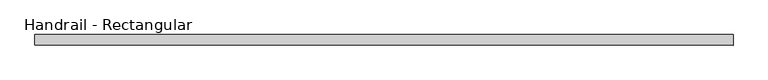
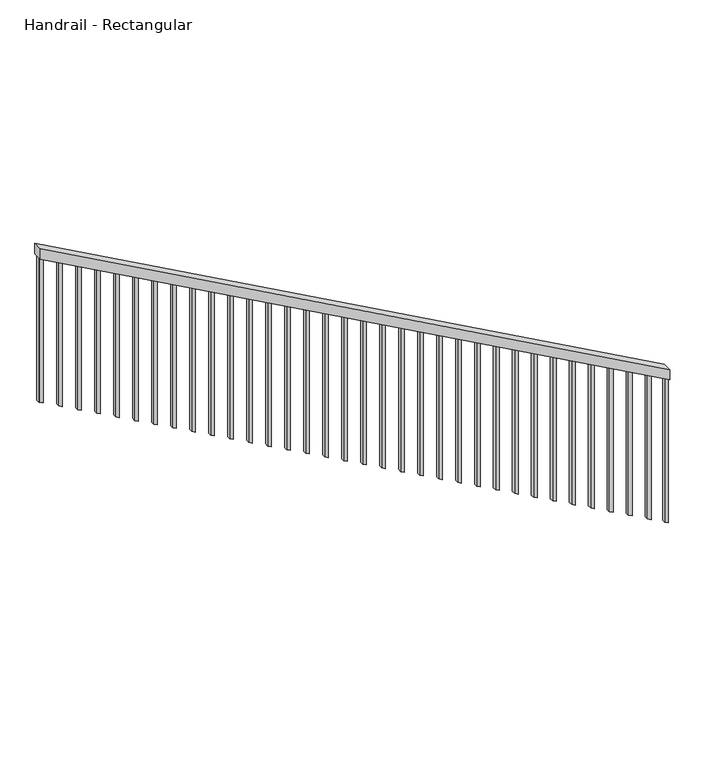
"""IFC4 building model written with IfcOpenShell, lengths in millimetres: railing geometry, Handrail - Rectangular."""

import ifcopenshell
import ifcopenshell.guid

model = None  # the IFC model being written
_history = None  # IfcOwnerHistory: only IFC2X3 demands one
_inside = {}  # id of a spatial element -> (the spatial element, [elements in it])
_under = {}  # id of a project, library or spatial element -> (it, [spatial elements below it])
_declared = {}  # id of a project -> (the project, [libraries it declares])
_typed = {}  # id of a type object -> (the type object, [elements of that type])
_made_of = {}  # id of a material, layer set ... -> (it, [elements and type objects made of it])


def new_model(schema):
    """Start an empty IFC model of exactly this schema.

    Asked for "IFC4X3", IfcOpenShell would pick the latest addendum, in which some entities
    have other attributes; the version numbers below select the first issue.
    IFC2X3 requires an IfcOwnerHistory on every rooted entity: one is made here for all.
    """
    global model, _history
    if schema == "IFC4X3":
        model = ifcopenshell.file(schema_version=(4, 3, 0, 0))
    else:
        model = ifcopenshell.file(schema=schema)
    _inside.clear()
    _under.clear()
    _declared.clear()
    _typed.clear()
    _made_of.clear()
    _history = None
    if model.schema == "IFC2X3":
        org = make("IfcOrganization", Name="unknown")
        user = make(
            "IfcPersonAndOrganization",
            ThePerson=make("IfcPerson", FamilyName="unknown"),
            TheOrganization=org,
        )
        app = make(
            "IfcApplication",
            ApplicationDeveloper=org,
            Version="unknown",
            ApplicationFullName="unknown",
            ApplicationIdentifier="unknown",
        )
        _history = make(
            "IfcOwnerHistory",
            OwningUser=user,
            OwningApplication=app,
            ChangeAction="ADDED",
            CreationDate=0,
        )
    return model


def make(cls, **values):
    """One entity of the class cls with the attributes given. An attribute that is None is left unset."""
    return model.create_entity(
        cls, **{name: value for name, value in values.items() if value is not None}
    )


def rooted(cls, **values):
    """An entity with a GlobalId (a new one), such as an element, a storey or a relation."""
    return make(cls, GlobalId=ifcopenshell.guid.new(), OwnerHistory=_history, **values)


def si_unit(unit_type, name, prefix=None):
    """IfcSIUnit, for example si_unit("LENGTHUNIT", "METRE", prefix="MILLI")."""
    return make("IfcSIUnit", UnitType=unit_type, Prefix=prefix, Name=name)


def assignment(units):
    """IfcUnitAssignment: the units of a project."""
    return None if units is None else make("IfcUnitAssignment", Units=units)


def point(xyz):
    """IfcCartesianPoint."""
    return None if xyz is None else make("IfcCartesianPoint", Coordinates=xyz)


def direction(xyz):
    """IfcDirection."""
    return None if xyz is None else make("IfcDirection", DirectionRatios=xyz)


def frame(location, z_axis=None, x_axis=None):
    """IfcAxis2Placement3D, a coordinate frame: its origin and axes. An axis left out is left unset."""
    return make(
        "IfcAxis2Placement3D",
        Location=point(location),
        Axis=direction(z_axis),
        RefDirection=direction(x_axis),
    )


def origin():
    """The frame at (0, 0, 0) with its axes left unset."""
    return frame((0.0, 0.0, 0.0))


def place(relative_to, where):
    """IfcLocalPlacement: puts the frame where relative to a parent placement (None: the world)."""
    return make(
        "IfcLocalPlacement", PlacementRelTo=relative_to, RelativePlacement=where
    )


def context(
    kind, dimensions, precision=None, world=None, true_north=None, identifier=None
):
    """IfcGeometricRepresentationContext, for example the 3D "Model" context."""
    return make(
        "IfcGeometricRepresentationContext",
        ContextIdentifier=identifier,
        ContextType=kind,
        CoordinateSpaceDimension=dimensions,
        Precision=precision,
        WorldCoordinateSystem=world,
        TrueNorth=true_north,
    )


def project(units=None, contexts=None):
    """IfcProject with its units and contexts."""
    return rooted(
        "IfcProject",
        Name="project",
        RepresentationContexts=contexts,
        UnitsInContext=assignment(units),
    )


def spatial(cls, under=None, at=None, **own):
    """A site, building, storey or space (cls), placed at a placement, below another one or the project."""
    s = rooted(cls, ObjectPlacement=at, **own)
    if under is not None:
        _under.setdefault(under.id(), (under, []))[1].append(s)
    return s


def polyline(points):
    """IfcPolyline through the points."""
    return make("IfcPolyline", Points=[point(p) for p in points])


def outline(outer, holes=None, kind="AREA"):
    """IfcArbitraryClosedProfileDef: a profile drawn as a closed curve; with holes, ...WithVoids."""
    if holes is None:
        return make("IfcArbitraryClosedProfileDef", ProfileType=kind, OuterCurve=outer)
    return make(
        "IfcArbitraryProfileDefWithVoids",
        ProfileType=kind,
        OuterCurve=outer,
        InnerCurves=holes,
    )


def extrude(swept, where, along, depth):
    """IfcExtrudedAreaSolid: the profile swept, set in the frame where, extruded along a direction by depth."""
    return make(
        "IfcExtrudedAreaSolid",
        SweptArea=swept,
        Position=where,
        ExtrudedDirection=direction(along),
        Depth=depth,
    )


def shape(context_of_items, identifier, shape_type, items):
    """IfcShapeRepresentation: the items that make up one representation, for example the "Body"."""
    return make(
        "IfcShapeRepresentation",
        ContextOfItems=context_of_items,
        RepresentationIdentifier=identifier,
        RepresentationType=shape_type,
        Items=items,
    )


def source(mapping_origin, context_of_items, identifier, shape_type, items):
    """IfcRepresentationMap: a shape defined once, which mapped items show again and again."""
    return make(
        "IfcRepresentationMap",
        MappingOrigin=mapping_origin,
        MappedRepresentation=shape(context_of_items, identifier, shape_type, items),
    )


def transform(
    local_origin,
    x_axis=None,
    y_axis=None,
    z_axis=None,
    scale=None,
    scale2=None,
    scale3=None,
    uniform=True,
):
    """IfcCartesianTransformationOperator3D, or its non-uniform kind. x_axis, y_axis, z_axis: its Axis1, 2, 3."""
    if uniform:
        return make(
            "IfcCartesianTransformationOperator3D",
            Axis1=direction(x_axis),
            Axis2=direction(y_axis),
            LocalOrigin=point(local_origin),
            Scale=scale,
            Axis3=direction(z_axis),
        )
    return make(
        "IfcCartesianTransformationOperator3DnonUniform",
        Axis1=direction(x_axis),
        Axis2=direction(y_axis),
        LocalOrigin=point(local_origin),
        Scale=scale,
        Axis3=direction(z_axis),
        Scale2=scale2,
        Scale3=scale3,
    )


def mapped(mapping_source, mapping_target):
    """IfcMappedItem: shows the shape of a source again, moved by a transform."""
    return make(
        "IfcMappedItem", MappingSource=mapping_source, MappingTarget=mapping_target
    )


def made_of(thing, what):
    """Note that an element or type object is made of a material, layer set ...; save() writes the relation."""
    if what is not None:
        _made_of.setdefault(what.id(), (what, []))[1].append(thing)
    return thing


def element(
    cls,
    number,
    at=None,
    inside=None,
    cuts=None,
    type_object=None,
    material=None,
    context=None,
    identifier="Body",
    shape_type=None,
    held_by="IfcProductDefinitionShape",
    body=None,
    shapes=None,
    **own,
):
    """One element of the class cls, such as IfcWall. Its Tag is "e" and its number.

    at: its placement. inside: the storey or other place that contains it. cuts: it is an
    opening in that element (IfcRelVoidsElement). A single representation is given by context,
    identifier, shape_type and body (its items); several are given by shapes. held_by: the class
    of the entity that holds the representations. save() writes the other relations.
    """
    e = rooted(cls, Tag="e%d" % number, ObjectPlacement=at, **own)
    if body is not None:
        shapes = [shape(context, identifier, shape_type, body)]
    if shapes is not None:
        e.Representation = make(held_by, Representations=shapes)
    if inside is not None:
        _inside.setdefault(inside.id(), (inside, []))[1].append(e)
    if cuts is not None:
        rooted(
            "IfcRelVoidsElement", RelatingBuildingElement=cuts, RelatedOpeningElement=e
        )
    if type_object is not None:
        _typed.setdefault(type_object.id(), (type_object, []))[1].append(e)
    return made_of(e, material)


def aggregate(whole, parts):
    """IfcRelAggregates: a whole, such as a stair, and the parts it consists of."""
    return rooted("IfcRelAggregates", RelatingObject=whole, RelatedObjects=parts)


def save(model, path):
    """Write the relations noted so far, then the file.

    IfcRelAggregates (storeys below a building ...), IfcRelContainedInSpatialStructure (elements
    in a storey), IfcRelDefinesByType, IfcRelAssociatesMaterial and IfcRelDeclares: one each for
    every whole, place, type object, material and project.
    """
    for whole, parts in _under.values():
        aggregate(whole, parts)
    for where, things in _inside.values():
        rooted(
            "IfcRelContainedInSpatialStructure",
            RelatedElements=things,
            RelatingStructure=where,
        )
    for kind, things in _typed.values():
        rooted("IfcRelDefinesByType", RelatedObjects=things, RelatingType=kind)
    for what, things in _made_of.values():
        rooted("IfcRelAssociatesMaterial", RelatedObjects=things, RelatingMaterial=what)
    for by, libraries in _declared.values():
        rooted("IfcRelDeclares", RelatingContext=by, RelatedDefinitions=libraries)
    model.write(path)


def handrail_rectangular_c1d8111d(model_context):
    return source(origin(), model_context, "Body", "SweptSolid", [
        extrude(outline(polyline([(4285.3496079, 92954.1951063), (4343.4, 92954.1951063), (6206.0666667, 89585.9544789), (6148.0162746, 89585.9544789), (4285.3496079, 92954.1951063)])), frame((0.0, 8184.0546943, 0.0), z_axis=(0.0, 1.0, 0.0), x_axis=(0.0, 0.0, 1.0)), (0.0, 0.0, 1.0), 50.8),
        extrude(outline(polyline([(6144.7448807, 89591.8701063), (5326.4432727, 89591.8701063), (5315.9084553, 89610.9201063), (6134.2100632, 89610.9201063), (6144.7448807, 89591.8701063)])), frame((0.0, 8199.9296943, 0.0), z_axis=(0.0, 1.0, 0.0), x_axis=(0.0, 0.0, 1.0)), (0.0, 0.0, 1.0), 19.05),
        extrude(outline(polyline([(6088.5591878, 89693.4701063), (5270.2575799, 89693.4701063), (5259.7227625, 89712.5201063), (6078.0243704, 89712.5201063), (6088.5591878, 89693.4701063)])), frame((0.0, 8199.9296943, 0.0), z_axis=(0.0, 1.0, 0.0), x_axis=(0.0, 0.0, 1.0)), (0.0, 0.0, 1.0), 19.05),
        extrude(outline(polyline([(6032.373495, 89795.0701063), (5214.071887, 89795.0701063), (5203.5370696, 89814.1201063), (6021.8386775, 89814.1201063), (6032.373495, 89795.0701063)])), frame((0.0, 8199.9296943, 0.0), z_axis=(0.0, 1.0, 0.0), x_axis=(0.0, 0.0, 1.0)), (0.0, 0.0, 1.0), 19.05),
        extrude(outline(polyline([(5976.1878021, 89896.6701063), (5157.8861942, 89896.6701063), (5147.3513768, 89915.7201063), (5965.6529847, 89915.7201063), (5976.1878021, 89896.6701063)])), frame((0.0, 8199.9296943, 0.0), z_axis=(0.0, 1.0, 0.0), x_axis=(0.0, 0.0, 1.0)), (0.0, 0.0, 1.0), 19.05),
        extrude(outline(polyline([(5920.0021093, 89998.2701063), (5101.7005013, 89998.2701063), (5091.1656839, 90017.3201063), (5909.4672918, 90017.3201063), (5920.0021093, 89998.2701063)])), frame((0.0, 8199.9296943, 0.0), z_axis=(0.0, 1.0, 0.0), x_axis=(0.0, 0.0, 1.0)), (0.0, 0.0, 1.0), 19.05),
        extrude(outline(polyline([(5863.8164164, 90099.8701063), (5045.5148085, 90099.8701063), (5034.9799911, 90118.9201063), (5853.281599, 90118.9201063), (5863.8164164, 90099.8701063)])), frame((0.0, 8199.9296943, 0.0), z_axis=(0.0, 1.0, 0.0), x_axis=(0.0, 0.0, 1.0)), (0.0, 0.0, 1.0), 19.05),
        extrude(outline(polyline([(5807.6307236, 90201.4701063), (4989.3291156, 90201.4701063), (4978.7942982, 90220.5201063), (5797.0959061, 90220.5201063), (5807.6307236, 90201.4701063)])), frame((0.0, 8199.9296943, 0.0), z_axis=(0.0, 1.0, 0.0), x_axis=(0.0, 0.0, 1.0)), (0.0, 0.0, 1.0), 19.05),
        extrude(outline(polyline([(5751.4450307, 90303.0701063), (4933.1434228, 90303.0701063), (4922.6086054, 90322.1201063), (5740.9102133, 90322.1201063), (5751.4450307, 90303.0701063)])), frame((0.0, 8199.9296943, 0.0), z_axis=(0.0, 1.0, 0.0), x_axis=(0.0, 0.0, 1.0)), (0.0, 0.0, 1.0), 19.05),
        extrude(outline(polyline([(5695.2593379, 90404.6701063), (4876.9577299, 90404.6701063), (4866.4229125, 90423.7201063), (5684.7245204, 90423.7201063), (5695.2593379, 90404.6701063)])), frame((0.0, 8199.9296943, 0.0), z_axis=(0.0, 1.0, 0.0), x_axis=(0.0, 0.0, 1.0)), (0.0, 0.0, 1.0), 19.05),
        extrude(outline(polyline([(5639.073645, 90506.2701063), (4820.7720371, 90506.2701063), (4810.2372197, 90525.3201063), (5628.5388276, 90525.3201063), (5639.073645, 90506.2701063)])), frame((0.0, 8199.9296943, 0.0), z_axis=(0.0, 1.0, 0.0), x_axis=(0.0, 0.0, 1.0)), (0.0, 0.0, 1.0), 19.05),
        extrude(outline(polyline([(5582.8879522, 90607.8701063), (4764.5863443, 90607.8701063), (4754.0515268, 90626.9201063), (5572.3531348, 90626.9201063), (5582.8879522, 90607.8701063)])), frame((0.0, 8199.9296943, 0.0), z_axis=(0.0, 1.0, 0.0), x_axis=(0.0, 0.0, 1.0)), (0.0, 0.0, 1.0), 19.05),
        extrude(outline(polyline([(5526.7022593, 90709.4701063), (4708.4006514, 90709.4701063), (4697.865834, 90728.5201063), (5516.1674419, 90728.5201063), (5526.7022593, 90709.4701063)])), frame((0.0, 8199.9296943, 0.0), z_axis=(0.0, 1.0, 0.0), x_axis=(0.0, 0.0, 1.0)), (0.0, 0.0, 1.0), 19.05),
        extrude(outline(polyline([(5470.5165665, 90811.0701063), (4652.2149586, 90811.0701063), (4641.6801411, 90830.1201063), (5459.9817491, 90830.1201063), (5470.5165665, 90811.0701063)])), frame((0.0, 8199.9296943, 0.0), z_axis=(0.0, 1.0, 0.0), x_axis=(0.0, 0.0, 1.0)), (0.0, 0.0, 1.0), 19.05),
        extrude(outline(polyline([(5414.3308736, 90912.6701063), (4596.0292657, 90912.6701063), (4585.4944483, 90931.7201063), (5403.7960562, 90931.7201063), (5414.3308736, 90912.6701063)])), frame((0.0, 8199.9296943, 0.0), z_axis=(0.0, 1.0, 0.0), x_axis=(0.0, 0.0, 1.0)), (0.0, 0.0, 1.0), 19.05),
        extrude(outline(polyline([(5358.1451808, 91014.2701063), (4539.8435729, 91014.2701063), (4529.3087554, 91033.3201063), (5347.6103634, 91033.3201063), (5358.1451808, 91014.2701063)])), frame((0.0, 8199.9296943, 0.0), z_axis=(0.0, 1.0, 0.0), x_axis=(0.0, 0.0, 1.0)), (0.0, 0.0, 1.0), 19.05),
        extrude(outline(polyline([(5301.9594879, 91115.8701063), (4483.65788, 91115.8701063), (4473.1230626, 91134.9201063), (5291.4246705, 91134.9201063), (5301.9594879, 91115.8701063)])), frame((0.0, 8199.9296943, 0.0), z_axis=(0.0, 1.0, 0.0), x_axis=(0.0, 0.0, 1.0)), (0.0, 0.0, 1.0), 19.05),
        extrude(outline(polyline([(5245.7737951, 91217.4701063), (4427.4721872, 91217.4701063), (4416.9373697, 91236.5201063), (5235.2389777, 91236.5201063), (5245.7737951, 91217.4701063)])), frame((0.0, 8199.9296943, 0.0), z_axis=(0.0, 1.0, 0.0), x_axis=(0.0, 0.0, 1.0)), (0.0, 0.0, 1.0), 19.05),
        extrude(outline(polyline([(5189.5881022, 91319.0701063), (4371.2864943, 91319.0701063), (4360.7516769, 91338.1201063), (5179.0532848, 91338.1201063), (5189.5881022, 91319.0701063)])), frame((0.0, 8199.9296943, 0.0), z_axis=(0.0, 1.0, 0.0), x_axis=(0.0, 0.0, 1.0)), (0.0, 0.0, 1.0), 19.05),
        extrude(outline(polyline([(5133.4024094, 91420.6701063), (4315.1008015, 91420.6701063), (4304.565984, 91439.7201063), (5122.867592, 91439.7201063), (5133.4024094, 91420.6701063)])), frame((0.0, 8199.9296943, 0.0), z_axis=(0.0, 1.0, 0.0), x_axis=(0.0, 0.0, 1.0)), (0.0, 0.0, 1.0), 19.05),
        extrude(outline(polyline([(5077.2167165, 91522.2701063), (4258.9151086, 91522.2701063), (4248.3802912, 91541.3201063), (5066.6818991, 91541.3201063), (5077.2167165, 91522.2701063)])), frame((0.0, 8199.9296943, 0.0), z_axis=(0.0, 1.0, 0.0), x_axis=(0.0, 0.0, 1.0)), (0.0, 0.0, 1.0), 19.05),
        extrude(outline(polyline([(5021.0310237, 91623.8701063), (4202.7294158, 91623.8701063), (4192.1945983, 91642.9201063), (5010.4962063, 91642.9201063), (5021.0310237, 91623.8701063)])), frame((0.0, 8199.9296943, 0.0), z_axis=(0.0, 1.0, 0.0), x_axis=(0.0, 0.0, 1.0)), (0.0, 0.0, 1.0), 19.05),
        extrude(outline(polyline([(4964.8453308, 91725.4701063), (4146.5437229, 91725.4701063), (4136.0089055, 91744.5201063), (4954.3105134, 91744.5201063), (4964.8453308, 91725.4701063)])), frame((0.0, 8199.9296943, 0.0), z_axis=(0.0, 1.0, 0.0), x_axis=(0.0, 0.0, 1.0)), (0.0, 0.0, 1.0), 19.05),
        extrude(outline(polyline([(4908.659638, 91827.0701063), (4090.3580301, 91827.0701063), (4079.8232127, 91846.1201063), (4898.1248206, 91846.1201063), (4908.659638, 91827.0701063)])), frame((0.0, 8199.9296943, 0.0), z_axis=(0.0, 1.0, 0.0), x_axis=(0.0, 0.0, 1.0)), (0.0, 0.0, 1.0), 19.05),
        extrude(outline(polyline([(4852.4739451, 91928.6701063), (4034.1723372, 91928.6701063), (4023.6375198, 91947.7201063), (4841.9391277, 91947.7201063), (4852.4739451, 91928.6701063)])), frame((0.0, 8199.9296943, 0.0), z_axis=(0.0, 1.0, 0.0), x_axis=(0.0, 0.0, 1.0)), (0.0, 0.0, 1.0), 19.05),
        extrude(outline(polyline([(4796.2882523, 92030.2701063), (3977.9866444, 92030.2701063), (3967.451827, 92049.3201063), (4785.7534349, 92049.3201063), (4796.2882523, 92030.2701063)])), frame((0.0, 8199.9296943, 0.0), z_axis=(0.0, 1.0, 0.0), x_axis=(0.0, 0.0, 1.0)), (0.0, 0.0, 1.0), 19.05),
        extrude(outline(polyline([(4740.1025594, 92131.8701063), (3921.8009515, 92131.8701063), (3911.2661341, 92150.9201063), (4729.567742, 92150.9201063), (4740.1025594, 92131.8701063)])), frame((0.0, 8199.9296943, 0.0), z_axis=(0.0, 1.0, 0.0), x_axis=(0.0, 0.0, 1.0)), (0.0, 0.0, 1.0), 19.05),
        extrude(outline(polyline([(4683.9168666, 92233.4701063), (3865.6152587, 92233.4701063), (3855.0804413, 92252.5201063), (4673.3820492, 92252.5201063), (4683.9168666, 92233.4701063)])), frame((0.0, 8199.9296943, 0.0), z_axis=(0.0, 1.0, 0.0), x_axis=(0.0, 0.0, 1.0)), (0.0, 0.0, 1.0), 19.05),
        extrude(outline(polyline([(4627.7311737, 92335.0701063), (3809.4295658, 92335.0701063), (3798.8947484, 92354.1201063), (4617.1963563, 92354.1201063), (4627.7311737, 92335.0701063)])), frame((0.0, 8199.9296943, 0.0), z_axis=(0.0, 1.0, 0.0), x_axis=(0.0, 0.0, 1.0)), (0.0, 0.0, 1.0), 19.05),
        extrude(outline(polyline([(4571.5454809, 92436.6701063), (3753.243873, 92436.6701063), (3742.7090556, 92455.7201063), (4561.0106635, 92455.7201063), (4571.5454809, 92436.6701063)])), frame((0.0, 8199.9296943, 0.0), z_axis=(0.0, 1.0, 0.0), x_axis=(0.0, 0.0, 1.0)), (0.0, 0.0, 1.0), 19.05),
        extrude(outline(polyline([(4515.359788, 92538.2701063), (3697.0581801, 92538.2701063), (3686.5233627, 92557.3201063), (4504.8249706, 92557.3201063), (4515.359788, 92538.2701063)])), frame((0.0, 8199.9296943, 0.0), z_axis=(0.0, 1.0, 0.0), x_axis=(0.0, 0.0, 1.0)), (0.0, 0.0, 1.0), 19.05),
        extrude(outline(polyline([(4459.1740952, 92639.8701063), (3640.8724873, 92639.8701063), (3630.3376699, 92658.9201063), (4448.6392778, 92658.9201063), (4459.1740952, 92639.8701063)])), frame((0.0, 8199.9296943, 0.0), z_axis=(0.0, 1.0, 0.0), x_axis=(0.0, 0.0, 1.0)), (0.0, 0.0, 1.0), 19.05),
        extrude(outline(polyline([(4402.9884023, 92741.4701063), (3584.6867944, 92741.4701063), (3574.151977, 92760.5201063), (4392.4535849, 92760.5201063), (4402.9884023, 92741.4701063)])), frame((0.0, 8199.9296943, 0.0), z_axis=(0.0, 1.0, 0.0), x_axis=(0.0, 0.0, 1.0)), (0.0, 0.0, 1.0), 19.05),
        extrude(outline(polyline([(4346.8027095, 92843.0701063), (3528.5011016, 92843.0701063), (3517.9662842, 92862.1201063), (4336.2678921, 92862.1201063), (4346.8027095, 92843.0701063)])), frame((0.0, 8199.9296943, 0.0), z_axis=(0.0, 1.0, 0.0), x_axis=(0.0, 0.0, 1.0)), (0.0, 0.0, 1.0), 19.05),
        extrude(outline(polyline([(6148.0162746, 89585.9544789), (5329.7146667, 89585.9544789), (5319.1798493, 89605.0044789), (6137.4814572, 89605.0044789), (6148.0162746, 89585.9544789)])), frame((0.0, 8199.9296943, 0.0), z_axis=(0.0, 1.0, 0.0), x_axis=(0.0, 0.0, 1.0)), (0.0, 0.0, 1.0), 19.05),
        extrude(outline(polyline([(4295.8844253, 92935.1451063), (3477.5828174, 92935.1451063), (3467.048, 92954.1951063), (4285.3496079, 92954.1951063), (4295.8844253, 92935.1451063)])), frame((0.0, 8199.9296943, 0.0), z_axis=(0.0, 1.0, 0.0), x_axis=(0.0, 0.0, 1.0)), (0.0, 0.0, 1.0), 19.05),
    ])


if __name__ == "__main__":
    model = new_model("IFC4")
    model_context = context("Model", 3, world=origin())
    ifc_project = project(units=[si_unit("LENGTHUNIT", "METRE", prefix="MILLI")], contexts=[model_context])
    site = spatial("IfcSite", under=ifc_project)
    building = spatial("IfcBuilding", under=site)
    placement = place(None, origin())
    handrail_rectangular_shape = handrail_rectangular_c1d8111d(model_context)
    element("IfcRailing", 1, ObjectType="Handrail - Rectangular", at=placement, inside=building, context=model_context, shape_type="MappedRepresentation", body=[
        mapped(handrail_rectangular_shape, transform((0.0, 0.0, 0.0), x_axis=(1.0, 0.0, 0.0), y_axis=(0.0, 1.0, 0.0), z_axis=(0.0, 0.0, 1.0))),
    ])
    save(model, "model.ifc")
